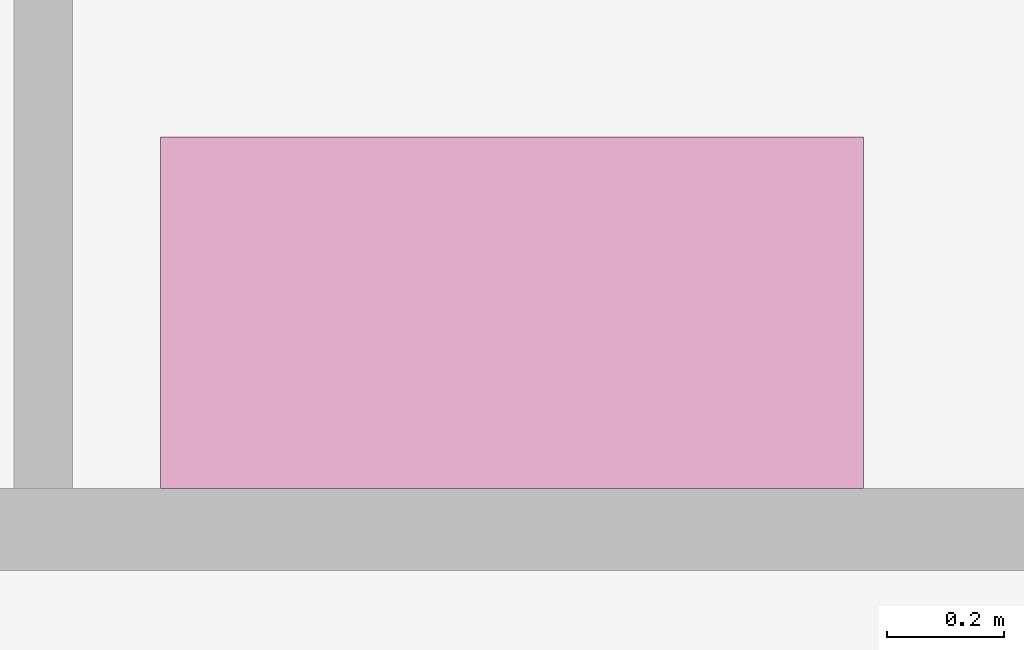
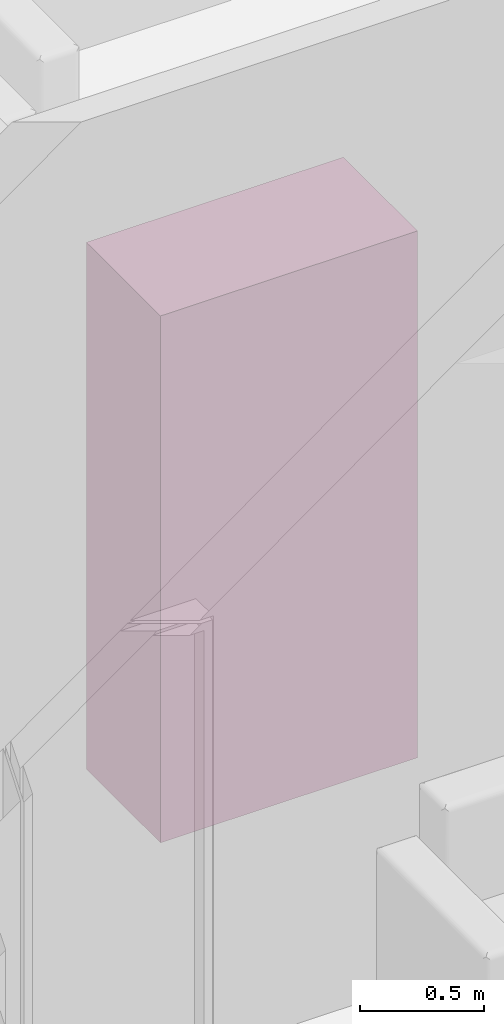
# One storey, part 66 of 72: 1 furniture element.
"""IFC4 building model written with IfcOpenShell, lengths in centimetres."""

from ifc_helpers import new_model, entity, si_unit, converted_unit, derived_unit, direction, frame, origin, place, context, subcontext, project, spatial, indexed_curve, outline, extrude, source, transform, mapped, material, type_object, type_shapes, element, save


model = new_model("IFC4")

# Units and contexts
model_context = context("Model", 3, precision=0.001, world=origin(), true_north=direction((6.123233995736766e-17, 1.0)))
body_context = subcontext(model_context, "Body", "Model", "MODEL_VIEW")
ifc_project = project(units=[si_unit("LENGTHUNIT", "METRE", prefix="CENTI"), si_unit("AREAUNIT", "SQUARE_METRE"), si_unit("VOLUMEUNIT", "CUBIC_METRE"), derived_unit("THERMALTRANSMITTANCEUNIT", [(si_unit("MASSUNIT", "GRAM", prefix="KILO"), 1), (si_unit("THERMODYNAMICTEMPERATUREUNIT", "KELVIN"), -1), (si_unit("TIMEUNIT", "SECOND"), -3)]), converted_unit("PLANEANGLEUNIT", "DEGREE", entity("IfcPlaneAngleMeasure", 0.017453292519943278), si_unit("PLANEANGLEUNIT", "RADIAN"), dimensions=[0, 0, 0, 0, 0, 0, 0]), derived_unit("MASSDENSITYUNIT", [(si_unit("MASSUNIT", "GRAM", prefix="KILO"), 1), (si_unit("LENGTHUNIT", "METRE"), -3)]), derived_unit("VAPORPERMEABILITYUNIT", [(si_unit("LENGTHUNIT", "METRE"), -1), (si_unit("TIMEUNIT", "SECOND"), 1)]), derived_unit("USERDEFINED", [(si_unit("MASSUNIT", "GRAM", prefix="KILO"), 1), (si_unit("TIMEUNIT", "SECOND"), -3), (si_unit("LENGTHUNIT", "METRE"), 3), (si_unit("ELECTRICCURRENTUNIT", "AMPERE"), -2)]), derived_unit("SPECIFICHEATCAPACITYUNIT", [(si_unit("THERMODYNAMICTEMPERATUREUNIT", "KELVIN"), -1), (si_unit("LENGTHUNIT", "METRE"), 2), (si_unit("TIMEUNIT", "SECOND"), -2)]), derived_unit("THERMALCONDUCTANCEUNIT", [(si_unit("MASSUNIT", "GRAM", prefix="KILO"), 1), (si_unit("THERMODYNAMICTEMPERATUREUNIT", "KELVIN"), -1), (si_unit("TIMEUNIT", "SECOND"), -3), (si_unit("LENGTHUNIT", "METRE"), 1)]), si_unit("PRESSUREUNIT", "PASCAL"), derived_unit("MODULUSOFELASTICITYUNIT", [(si_unit("MASSUNIT", "GRAM", prefix="KILO"), 1), (si_unit("LENGTHUNIT", "METRE"), -1), (si_unit("TIMEUNIT", "SECOND"), -2)]), derived_unit("THERMALEXPANSIONCOEFFICIENTUNIT", [(si_unit("THERMODYNAMICTEMPERATUREUNIT", "KELVIN"), -1)])], contexts=[model_context])

# Site, building, storey, space
site_placement = place(None, origin())
site = spatial("IfcSite", under=ifc_project, at=site_placement, Name="Default", CompositionType="ELEMENT")
building_placement = place(site_placement, origin())
building = spatial("IfcBuilding", under=site, at=building_placement, Name="IDS Escape Game Building", CompositionType="ELEMENT")
storey_placement = place(building_placement, frame((0.0, 0.0, 800.0)))
storey = spatial("IfcBuildingStorey", under=building, at=storey_placement, Name="02_Second Floor", CompositionType="ELEMENT", Elevation=800.0)
space_placement = place(storey_placement, origin())
space = spatial("IfcSpace", under=storey, at=space_placement, Name="83", CompositionType="ELEMENT", PredefinedType="NOTDEFINED")

# Furniture
ifc_material = material(Name="<Unnamed>")
furniture_type = type_object("IfcFurnitureType", Name="BPL_82.11_CA_UN_kast_gen_BERSnl:type 1", AssemblyPlace="NOTDEFINED", PredefinedType="NOTDEFINED", material=ifc_material)
shared_shape = source(origin(), body_context, "Body", "SweptSolid", [
    extrude(outline(indexed_curve([(-59.99999999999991, -29.999999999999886), (59.99999999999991, -29.999999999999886), (59.99999999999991, 29.999999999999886), (-59.99999999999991, 29.999999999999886), (-59.99999999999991, -29.999999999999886)], self_intersect=False)), frame((-60.0, -30.0, 0.0), z_axis=(0.0, 0.0, 1.0), x_axis=(-1.0, 0.0, 0.0)), (0.0, 0.0, 1.0), 260.0),
])
type_shapes(furniture_type, [shared_shape])
furniture_placement = place(space_placement, frame((3987.0, 711.0, 0.0)))
element("IfcFurniture", 1, at=furniture_placement, inside=space, type_object=furniture_type, material=ifc_material, Name="BPL_82.11_CA_UN_kast_gen_BERSnl:type 1", ObjectType="BPL_82.11_CA_UN_kast_gen_BERSnl:type 1", PredefinedType="NOTDEFINED", context=body_context, shape_type="MappedRepresentation", body=[
    mapped(shared_shape, transform((0.0, 0.0, 0.0), scale=1.0)),
])

save(model, "model.ifc")
